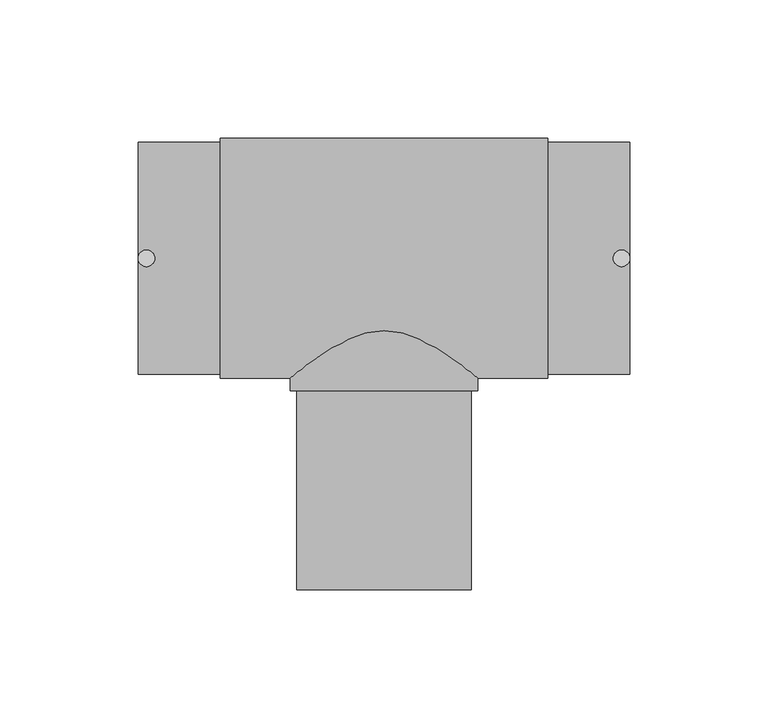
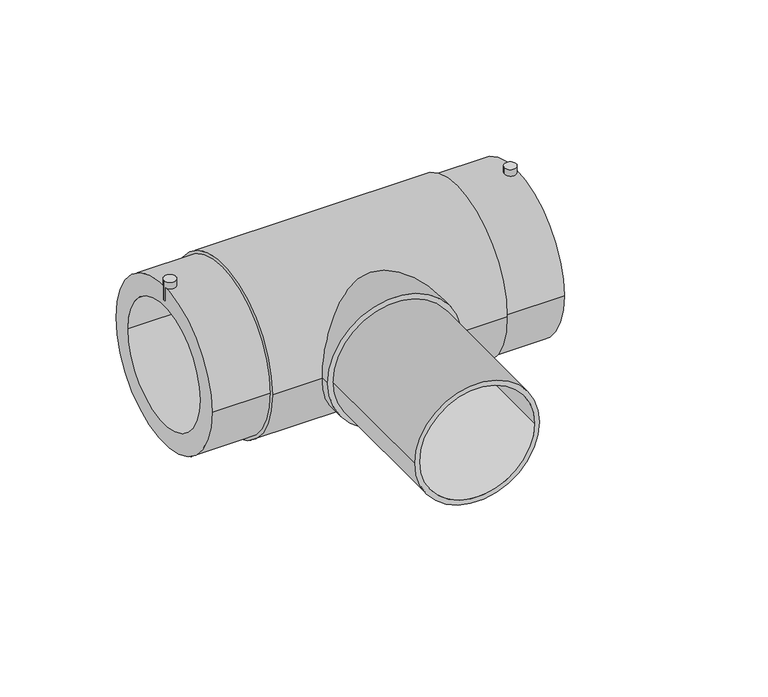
"""IFC4 building model written with IfcOpenShell, lengths in millimetres: pipe fitting geometry, EGB_VASEN_ PPR_Te electrosoldable WXRD300_Te reducida electrosoldable WXRD310 : Te electrosoldable."""

from ifc_helpers import new_model, si_unit, point, frame, frame_2d, origin, origin_2d, place, context, project, spatial, circle_curve, trimmed, segment, composite_curve, outline, extrude, source, transform, mapped, element, save


def pipe_fitting_763eecbe(model_context):
    return source(origin(), model_context, "Body", "SweptSolid", [
        extrude(outline(composite_curve([segment(trimmed(circle_curve(frame_2d((-86.0, 0.0)), 3.0), [point((-89.0, 0.0))], [point((-83.0, 0.0))], False, "CARTESIAN"), True, "CONTINUOUS"), segment(trimmed(circle_curve(frame_2d((-86.0, 0.0)), 3.0), [point((-83.0, 0.0))], [point((-89.0, 0.0))], False, "CARTESIAN"), True, "CONTINUOUS")], self_intersect=False)), frame((0.0, 0.0, 34.5), z_axis=(0.0, 0.0, 1.0), x_axis=(1.0, 0.0, 0.0)), (0.0, 0.0, 1.0), 10.5),
        extrude(outline(composite_curve([segment(trimmed(circle_curve(frame_2d((86.0, 0.0)), 3.0), [point((83.0, 0.0))], [point((89.0, 0.0))], False, "CARTESIAN"), True, "CONTINUOUS"), segment(trimmed(circle_curve(frame_2d((86.0, 0.0)), 3.0), [point((89.0, 0.0))], [point((83.0, 0.0))], False, "CARTESIAN"), True, "CONTINUOUS")], self_intersect=False)), frame((0.0, 0.0, 34.5), z_axis=(0.0, 0.0, 1.0), x_axis=(1.0, 0.0, 0.0)), (0.0, 0.0, 1.0), 10.5),
        extrude(outline(composite_curve([segment(trimmed(circle_curve(origin_2d(), 34.0), [point((0.0, 34.0))], [point((0.0, -34.0))], False, "CARTESIAN"), True, "CONTINUOUS"), segment(trimmed(circle_curve(origin_2d(), 34.0), [point((0.0, -34.0))], [point((0.0, 34.0))], False, "CARTESIAN"), True, "CONTINUOUS")], self_intersect=False)), frame((0.0, -48.0, 0.0), z_axis=(0.0, 1.0, 0.0), x_axis=(0.0, 0.0, 1.0)), (0.0, 0.0, 1.0), 48.0),
        extrude(outline(composite_curve([segment(trimmed(circle_curve(origin_2d(), 31.5), [point((0.0, -31.5))], [point((0.0, 31.5))], False, "CARTESIAN"), True, "CONTINUOUS"), segment(trimmed(circle_curve(origin_2d(), 31.5), [point((0.0, 31.5))], [point((0.0, -31.5))], False, "CARTESIAN"), True, "CONTINUOUS")], self_intersect=False), holes=[composite_curve([segment(trimmed(circle_curve(origin_2d(), 29.0), [point((0.0, -29.0))], [point((0.0, 29.0))], True, "CARTESIAN"), True, "CONTINUOUS"), segment(trimmed(circle_curve(origin_2d(), 29.0), [point((0.0, 29.0))], [point((0.0, -29.0))], True, "CARTESIAN"), True, "CONTINUOUS")], self_intersect=False)]), frame((0.0, -120.0, 0.0), z_axis=(0.0, 1.0, 0.0), x_axis=(0.0, 0.0, 1.0)), (0.0, 0.0, 1.0), 72.0),
        extrude(outline(composite_curve([segment(trimmed(circle_curve(origin_2d(), 43.5), [point((-43.5, 0.0))], [point((43.5, 0.0))], False, "CARTESIAN"), True, "CONTINUOUS"), segment(trimmed(circle_curve(origin_2d(), 43.5), [point((43.5, 0.0))], [point((-43.5, 0.0))], False, "CARTESIAN"), True, "CONTINUOUS")], self_intersect=False), holes=[composite_curve([segment(trimmed(circle_curve(origin_2d(), 31.5), [point((-31.5, 0.0))], [point((31.5, 0.0))], True, "CARTESIAN"), True, "CONTINUOUS"), segment(trimmed(circle_curve(origin_2d(), 31.5), [point((31.5, 0.0))], [point((-31.5, 0.0))], True, "CARTESIAN"), True, "CONTINUOUS")], self_intersect=False)]), frame((-59.3333333, 0.0, 0.0), z_axis=(1.0, 0.0, 0.0), x_axis=(0.0, 1.0, 0.0)), (0.0, 0.0, 1.0), 118.6666667),
        extrude(outline(composite_curve([segment(trimmed(circle_curve(origin_2d(), 42.0), [point((-42.0, 0.0))], [point((42.0, 0.0))], False, "CARTESIAN"), True, "CONTINUOUS"), segment(trimmed(circle_curve(origin_2d(), 42.0), [point((42.0, 0.0))], [point((-42.0, 0.0))], False, "CARTESIAN"), True, "CONTINUOUS")], self_intersect=False), holes=[composite_curve([segment(trimmed(circle_curve(origin_2d(), 31.5), [point((-31.5, 0.0))], [point((31.5, 0.0))], True, "CARTESIAN"), True, "CONTINUOUS"), segment(trimmed(circle_curve(origin_2d(), 31.5), [point((31.5, 0.0))], [point((-31.5, 0.0))], True, "CARTESIAN"), True, "CONTINUOUS")], self_intersect=False)]), frame((-89.0, 0.0, 0.0), z_axis=(1.0, 0.0, 0.0), x_axis=(0.0, 1.0, 0.0)), (0.0, 0.0, 1.0), 178.0),
    ])


if __name__ == "__main__":
    model = new_model("IFC4")
    model_context = context("Model", 3, world=origin())
    ifc_project = project(units=[si_unit("LENGTHUNIT", "METRE", prefix="MILLI")], contexts=[model_context])
    site = spatial("IfcSite", under=ifc_project)
    building = spatial("IfcBuilding", under=site)
    placement = place(None, origin())
    pipe_fitting_shape = pipe_fitting_763eecbe(model_context)
    element("IfcPipeFitting", 1, ObjectType="EGB_VASEN_ PPR_Te electrosoldable WXRD300_Te reducida electrosoldable WXRD310 : Te electrosoldable", at=placement, inside=building, context=model_context, shape_type="MappedRepresentation", body=[
        mapped(pipe_fitting_shape, transform((0.0, 0.0, 0.0), x_axis=(1.0, 0.0, 0.0), y_axis=(0.0, 1.0, 0.0), z_axis=(0.0, 0.0, 1.0))),
    ])
    save(model, "model.ifc")
